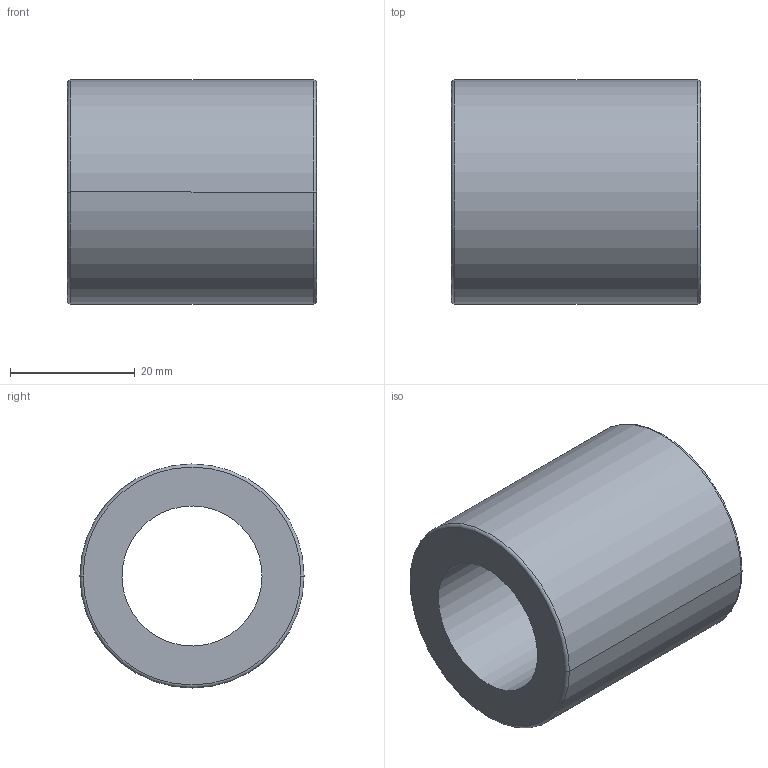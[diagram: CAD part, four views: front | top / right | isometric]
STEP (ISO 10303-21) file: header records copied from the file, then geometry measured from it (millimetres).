
FILE_DESCRIPTION(('CATIA V5 STEP Exchange'),'2;1');
FILE_NAME('C:\Users\aa\Documents\이댈\TM\STM\STM22.stp','2020-03-24T09:38:51+00:00',('none'),('none'),'CATIA Version 5 Release 20 SP 7 (IN-10)','CATIA V5 STEP AP203','none');
FILE_SCHEMA(('CONFIG_CONTROL_DESIGN'));
Length unit declared in the file: millimetre
Products named in the file (1): STM22
Bounding box: 40 x 36 x 36 mm (x, y, z)
Volume: 24798.7 mm3; surface area: 8543.1 mm2
Topology: 1 solids, 1 shells, 10 faces, 20 edges, 12 vertices
Faces by surface type: cylinder 4, torus 4, plane 2
Entity records: 322 total; most frequent: CARTESIAN_POINT 71, ORIENTED_EDGE 40, DIRECTION 38, AXIS2_PLACEMENT_3D 25, EDGE_CURVE 20, CIRCLE 14, EDGE_LOOP 12, VERTEX_POINT 12
